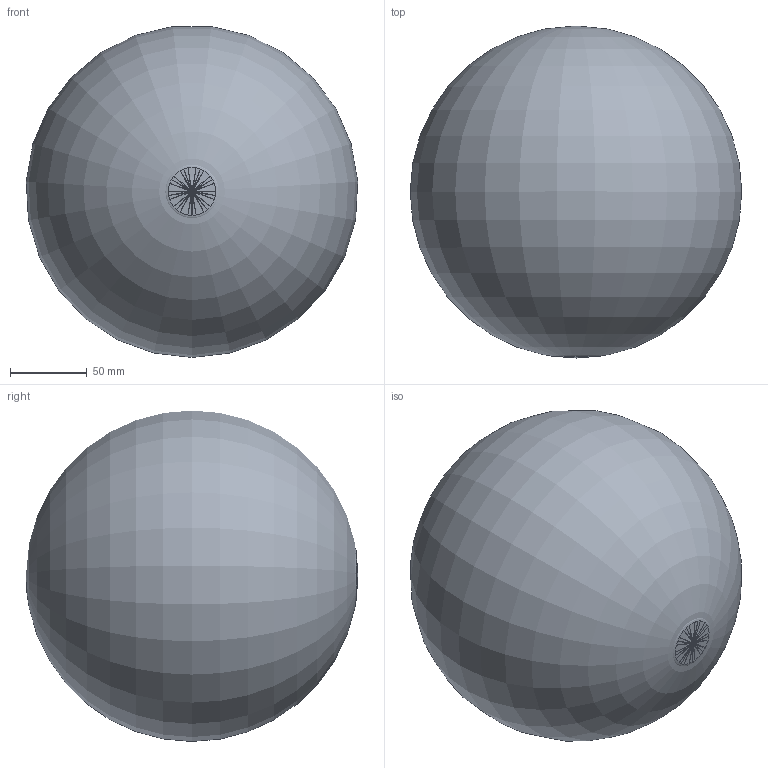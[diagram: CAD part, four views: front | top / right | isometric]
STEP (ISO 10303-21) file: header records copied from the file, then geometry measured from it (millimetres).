
FILE_DESCRIPTION(/* description */ ('STEP AP214'),/* implementation_level */ '2;1');
FILE_NAME(/* name */ '6T40Q5040ESDS01',/* time_stamp */ '2024-09-05T09:16:00+02:00',/* author */ ('License CC BY-ND 4.0'),/* organization */ ('CADENAS'),/* preprocessor_version */ 'ST-DEVELOPER v19.3',/* originating_system */ 'PARTsolutions',/* authorisation */ ' ');
FILE_SCHEMA (('AUTOMOTIVE_DESIGN {1 0 10303 214 3 1 1}'));
Length unit declared in the file: millimetre
Products named in the file (6): 6T40Q5040ESDS01; 6T40Q5040ESDS01_1; 6T40Q5040ESDS01_5; 6T40Q5040ESDS01_3; 6T40Q5040ESDS01_2; 6T40Q5040ESDS01_4
Assembly tree (6 placements, depth 2):
  6T40Q5040ESDS01
    6T40Q5040ESDS01_1
    6T40Q5040ESDS01_5
    6T40Q5040ESDS01_3
    6T40Q5040ESDS01_2  x2
    6T40Q5040ESDS01_4
Bounding box: 216.63 x 216.96 x 216.27 mm (x, y, z)
Volume: 5298597.2 mm3; surface area: 200097.5 mm2
Topology: 6 solids, 6 shells, 361 faces, 999 edges, 664 vertices
Faces by surface type: plane 157, cylinder 145, torus 29, cone 22, bspline 7, sphere 1
Full cylindrical faces by diameter (mm): 6.647 x1, 8 x1, 13 x1, 31 x1, 36.8 x1
Entity records: 11039 total; most frequent: CARTESIAN_POINT 2657, ORIENTED_EDGE 1734, DIRECTION 1711, EDGE_CURVE 867, AXIS2_PLACEMENT_3D 647, VERTEX_POINT 591, LINE 417, VECTOR 417
